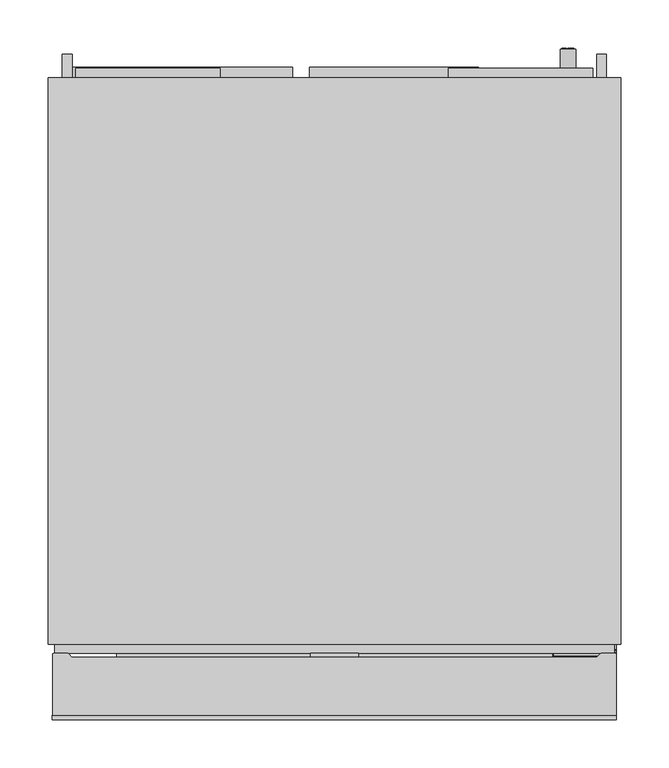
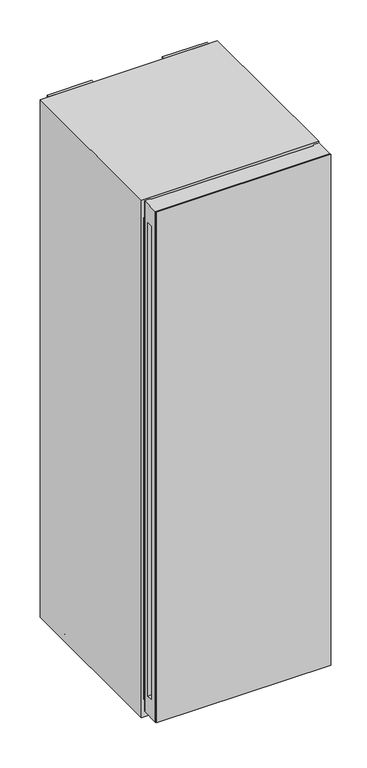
"""IFC4 building model written with IfcOpenShell, lengths in millimetres: proxy geometry, 12581040_CN_KWTS4785F_OBSW : 39478562_CN_12581040_KWTS4785F_OBSW."""

import ifcopenshell
import ifcopenshell.guid

model = None  # the IFC model being written
_history = None  # IfcOwnerHistory: only IFC2X3 demands one
_inside = {}  # id of a spatial element -> (the spatial element, [elements in it])
_under = {}  # id of a project, library or spatial element -> (it, [spatial elements below it])
_declared = {}  # id of a project -> (the project, [libraries it declares])
_typed = {}  # id of a type object -> (the type object, [elements of that type])
_made_of = {}  # id of a material, layer set ... -> (it, [elements and type objects made of it])


def new_model(schema):
    """Start an empty IFC model of exactly this schema.

    Asked for "IFC4X3", IfcOpenShell would pick the latest addendum, in which some entities
    have other attributes; the version numbers below select the first issue.
    IFC2X3 requires an IfcOwnerHistory on every rooted entity: one is made here for all.
    """
    global model, _history
    if schema == "IFC4X3":
        model = ifcopenshell.file(schema_version=(4, 3, 0, 0))
    else:
        model = ifcopenshell.file(schema=schema)
    _inside.clear()
    _under.clear()
    _declared.clear()
    _typed.clear()
    _made_of.clear()
    _history = None
    if model.schema == "IFC2X3":
        org = make("IfcOrganization", Name="unknown")
        user = make(
            "IfcPersonAndOrganization",
            ThePerson=make("IfcPerson", FamilyName="unknown"),
            TheOrganization=org,
        )
        app = make(
            "IfcApplication",
            ApplicationDeveloper=org,
            Version="unknown",
            ApplicationFullName="unknown",
            ApplicationIdentifier="unknown",
        )
        _history = make(
            "IfcOwnerHistory",
            OwningUser=user,
            OwningApplication=app,
            ChangeAction="ADDED",
            CreationDate=0,
        )
    return model


def make(cls, **values):
    """One entity of the class cls with the attributes given. An attribute that is None is left unset."""
    return model.create_entity(
        cls, **{name: value for name, value in values.items() if value is not None}
    )


def rooted(cls, **values):
    """An entity with a GlobalId (a new one), such as an element, a storey or a relation."""
    return make(cls, GlobalId=ifcopenshell.guid.new(), OwnerHistory=_history, **values)


def si_unit(unit_type, name, prefix=None):
    """IfcSIUnit, for example si_unit("LENGTHUNIT", "METRE", prefix="MILLI")."""
    return make("IfcSIUnit", UnitType=unit_type, Prefix=prefix, Name=name)


def assignment(units):
    """IfcUnitAssignment: the units of a project."""
    return None if units is None else make("IfcUnitAssignment", Units=units)


def point(xyz):
    """IfcCartesianPoint."""
    return None if xyz is None else make("IfcCartesianPoint", Coordinates=xyz)


def direction(xyz):
    """IfcDirection."""
    return None if xyz is None else make("IfcDirection", DirectionRatios=xyz)


def frame(location, z_axis=None, x_axis=None):
    """IfcAxis2Placement3D, a coordinate frame: its origin and axes. An axis left out is left unset."""
    return make(
        "IfcAxis2Placement3D",
        Location=point(location),
        Axis=direction(z_axis),
        RefDirection=direction(x_axis),
    )


def frame_2d(location, x_axis=None):
    """IfcAxis2Placement2D, a coordinate frame in the plane: its origin and x axis."""
    return make(
        "IfcAxis2Placement2D", Location=point(location), RefDirection=direction(x_axis)
    )


def origin():
    """The frame at (0, 0, 0) with its axes left unset."""
    return frame((0.0, 0.0, 0.0))


def origin_with_axes():
    """The frame at (0, 0, 0) with the z axis (0, 0, 1) and the x axis (1, 0, 0) written out."""
    return frame((0.0, 0.0, 0.0), z_axis=(0.0, 0.0, 1.0), x_axis=(1.0, 0.0, 0.0))


def place(relative_to, where):
    """IfcLocalPlacement: puts the frame where relative to a parent placement (None: the world)."""
    return make(
        "IfcLocalPlacement", PlacementRelTo=relative_to, RelativePlacement=where
    )


def context(
    kind, dimensions, precision=None, world=None, true_north=None, identifier=None
):
    """IfcGeometricRepresentationContext, for example the 3D "Model" context."""
    return make(
        "IfcGeometricRepresentationContext",
        ContextIdentifier=identifier,
        ContextType=kind,
        CoordinateSpaceDimension=dimensions,
        Precision=precision,
        WorldCoordinateSystem=world,
        TrueNorth=true_north,
    )


def project(units=None, contexts=None):
    """IfcProject with its units and contexts."""
    return rooted(
        "IfcProject",
        Name="project",
        RepresentationContexts=contexts,
        UnitsInContext=assignment(units),
    )


def spatial(cls, under=None, at=None, **own):
    """A site, building, storey or space (cls), placed at a placement, below another one or the project."""
    s = rooted(cls, ObjectPlacement=at, **own)
    if under is not None:
        _under.setdefault(under.id(), (under, []))[1].append(s)
    return s


def polyline(points):
    """IfcPolyline through the points."""
    return make("IfcPolyline", Points=[point(p) for p in points])


def circle_curve(where, radius):
    """IfcCircle in the frame where."""
    return make("IfcCircle", Position=where, Radius=radius)


def trimmed(basis, trim1, trim2, sense, master):
    """IfcTrimmedCurve: the piece of a basis curve between two trims."""
    return make(
        "IfcTrimmedCurve",
        BasisCurve=basis,
        Trim1=trim1,
        Trim2=trim2,
        SenseAgreement=sense,
        MasterRepresentation=master,
    )


def segment(curve, same_sense, transition):
    """IfcCompositeCurveSegment."""
    return make(
        "IfcCompositeCurveSegment",
        Transition=transition,
        SameSense=same_sense,
        ParentCurve=curve,
    )


def composite_curve(segments, self_intersect=None):
    """IfcCompositeCurve: segments joined end to end."""
    return make("IfcCompositeCurve", Segments=segments, SelfIntersect=self_intersect)


def outline(outer, holes=None, kind="AREA"):
    """IfcArbitraryClosedProfileDef: a profile drawn as a closed curve; with holes, ...WithVoids."""
    if holes is None:
        return make("IfcArbitraryClosedProfileDef", ProfileType=kind, OuterCurve=outer)
    return make(
        "IfcArbitraryProfileDefWithVoids",
        ProfileType=kind,
        OuterCurve=outer,
        InnerCurves=holes,
    )


def extrude(swept, where, along, depth):
    """IfcExtrudedAreaSolid: the profile swept, set in the frame where, extruded along a direction by depth."""
    return make(
        "IfcExtrudedAreaSolid",
        SweptArea=swept,
        Position=where,
        ExtrudedDirection=direction(along),
        Depth=depth,
    )


def faces_of(points, faces, orient=None, outer=None):
    """IfcFace entities. A face is a list of loops; a loop is a list of indices into points, from 0.

    orient and outer hold one flag for each loop. By default every Orientation is true, the
    first loop of a face is its IfcFaceOuterBound and the others are IfcFaceBound.
    """
    made = []
    for i, loops in enumerate(faces):
        bounds = []
        for j, loop in enumerate(loops):
            is_outer = j == 0 if outer is None else outer[i][j]
            bounds.append(
                make(
                    "IfcFaceOuterBound" if is_outer else "IfcFaceBound",
                    Bound=make("IfcPolyLoop", Polygon=[points[k] for k in loop]),
                    Orientation=True if orient is None else orient[i][j],
                )
            )
        made.append(make("IfcFace", Bounds=bounds))
    return made


def faceted_brep(points, faces, orient=None, outer=None, voids=None):
    """IfcFacetedBrep: a solid bounded by flat faces; with voids (closed shells), ...WithVoids."""
    shared = [point(p) for p in points]
    hull = make("IfcClosedShell", CfsFaces=faces_of(shared, faces, orient, outer))
    if voids is None:
        return make("IfcFacetedBrep", Outer=hull)
    return make(
        "IfcFacetedBrepWithVoids",
        Outer=hull,
        Voids=[
            make(cls, CfsFaces=faces_of(shared, fs, o, b)) for cls, fs, o, b in voids
        ],
    )


def shape(context_of_items, identifier, shape_type, items):
    """IfcShapeRepresentation: the items that make up one representation, for example the "Body"."""
    return make(
        "IfcShapeRepresentation",
        ContextOfItems=context_of_items,
        RepresentationIdentifier=identifier,
        RepresentationType=shape_type,
        Items=items,
    )


def source(mapping_origin, context_of_items, identifier, shape_type, items):
    """IfcRepresentationMap: a shape defined once, which mapped items show again and again."""
    return make(
        "IfcRepresentationMap",
        MappingOrigin=mapping_origin,
        MappedRepresentation=shape(context_of_items, identifier, shape_type, items),
    )


def transform(
    local_origin,
    x_axis=None,
    y_axis=None,
    z_axis=None,
    scale=None,
    scale2=None,
    scale3=None,
    uniform=True,
):
    """IfcCartesianTransformationOperator3D, or its non-uniform kind. x_axis, y_axis, z_axis: its Axis1, 2, 3."""
    if uniform:
        return make(
            "IfcCartesianTransformationOperator3D",
            Axis1=direction(x_axis),
            Axis2=direction(y_axis),
            LocalOrigin=point(local_origin),
            Scale=scale,
            Axis3=direction(z_axis),
        )
    return make(
        "IfcCartesianTransformationOperator3DnonUniform",
        Axis1=direction(x_axis),
        Axis2=direction(y_axis),
        LocalOrigin=point(local_origin),
        Scale=scale,
        Axis3=direction(z_axis),
        Scale2=scale2,
        Scale3=scale3,
    )


def mapped(mapping_source, mapping_target):
    """IfcMappedItem: shows the shape of a source again, moved by a transform."""
    return make(
        "IfcMappedItem", MappingSource=mapping_source, MappingTarget=mapping_target
    )


def made_of(thing, what):
    """Note that an element or type object is made of a material, layer set ...; save() writes the relation."""
    if what is not None:
        _made_of.setdefault(what.id(), (what, []))[1].append(thing)
    return thing


def element(
    cls,
    number,
    at=None,
    inside=None,
    cuts=None,
    type_object=None,
    material=None,
    context=None,
    identifier="Body",
    shape_type=None,
    held_by="IfcProductDefinitionShape",
    body=None,
    shapes=None,
    **own,
):
    """One element of the class cls, such as IfcWall. Its Tag is "e" and its number.

    at: its placement. inside: the storey or other place that contains it. cuts: it is an
    opening in that element (IfcRelVoidsElement). A single representation is given by context,
    identifier, shape_type and body (its items); several are given by shapes. held_by: the class
    of the entity that holds the representations. save() writes the other relations.
    """
    e = rooted(cls, Tag="e%d" % number, ObjectPlacement=at, **own)
    if body is not None:
        shapes = [shape(context, identifier, shape_type, body)]
    if shapes is not None:
        e.Representation = make(held_by, Representations=shapes)
    if inside is not None:
        _inside.setdefault(inside.id(), (inside, []))[1].append(e)
    if cuts is not None:
        rooted(
            "IfcRelVoidsElement", RelatingBuildingElement=cuts, RelatedOpeningElement=e
        )
    if type_object is not None:
        _typed.setdefault(type_object.id(), (type_object, []))[1].append(e)
    return made_of(e, material)


def aggregate(whole, parts):
    """IfcRelAggregates: a whole, such as a stair, and the parts it consists of."""
    return rooted("IfcRelAggregates", RelatingObject=whole, RelatedObjects=parts)


def save(model, path):
    """Write the relations noted so far, then the file.

    IfcRelAggregates (storeys below a building ...), IfcRelContainedInSpatialStructure (elements
    in a storey), IfcRelDefinesByType, IfcRelAssociatesMaterial and IfcRelDeclares: one each for
    every whole, place, type object, material and project.
    """
    for whole, parts in _under.values():
        aggregate(whole, parts)
    for where, things in _inside.values():
        rooted(
            "IfcRelContainedInSpatialStructure",
            RelatedElements=things,
            RelatingStructure=where,
        )
    for kind, things in _typed.values():
        rooted("IfcRelDefinesByType", RelatedObjects=things, RelatingType=kind)
    for what, things in _made_of.values():
        rooted("IfcRelAssociatesMaterial", RelatedObjects=things, RelatingMaterial=what)
    for by, libraries in _declared.values():
        rooted("IfcRelDeclares", RelatingContext=by, RelatedDefinitions=libraries)
    model.write(path)


def plane_surface(at):
    """IfcPlane: the flat surface through the origin of the frame at, square to its z axis."""
    return make("IfcPlane", Position=at)


def cylinder_surface(at, radius):
    """IfcCylindricalSurface: all points at the distance radius from the z axis of the frame at."""
    return make("IfcCylindricalSurface", Position=at, Radius=radius)


def advanced_brep(points, edges, surfaces, faces):
    """IfcAdvancedBrep: a solid bounded by faces that lie on surfaces and meet in shared edges.

    An edge is (start, end): straight between two places in points (the first is 0);
    or (start, end, curve); or (start, end, curve, False) where it runs against its curve.
    A face is (place in surfaces, loops), or (place, loops, False) where it looks against
    its surface's normal. A loop lists edges by number (the first is 1), with a minus sign
    where the edge is run from its end to its start. The first loop is the outer one.
    """
    corners = [point(p) for p in points]
    vertices = [make("IfcVertexPoint", VertexGeometry=c) for c in corners]
    made = []
    for start, end, *more in edges:
        made.append(
            make(
                "IfcEdgeCurve",
                EdgeStart=vertices[start],
                EdgeEnd=vertices[end],
                EdgeGeometry=more[0] if more else make("IfcPolyline", Points=[corners[start], corners[end]]),
                SameSense=more[1] if len(more) > 1 else True,
            )
        )
    hull = []
    for where, loops, *sense in faces:
        bounds = []
        for j, loop in enumerate(loops):
            ring = [make("IfcOrientedEdge", EdgeElement=made[abs(k) - 1], Orientation=k > 0) for k in loop]
            bounds.append(
                make(
                    "IfcFaceOuterBound" if j == 0 else "IfcFaceBound",
                    Bound=make("IfcEdgeLoop", EdgeList=ring),
                    Orientation=True,
                )
            )
        hull.append(make("IfcAdvancedFace", Bounds=bounds, FaceSurface=surfaces[where], SameSense=sense[0] if sense else True))
    return make("IfcAdvancedBrep", Outer=make("IfcClosedShell", CfsFaces=hull))


def specialty_equipment_2e1800ad(model_context):
    return source(origin(), model_context, "Body", "SolidModel", [
        extrude(outline(composite_curve([segment(polyline([(366.7, -174.8999939), (358.7, -174.8999939), (358.7, -156.8999939), (366.7, -156.8999939)]), True, "CONTINUOUS"), segment(trimmed(circle_curve(frame_2d((366.7, -160.8999939)), 4.0), [point((366.7, -156.8999939))], [point((370.7, -160.8999939))], False, "CARTESIAN"), True, "CONTINUOUS"), segment(polyline([(370.7, -160.8999939), (370.7, -170.8999939)]), True, "CONTINUOUS"), segment(trimmed(circle_curve(frame_2d((366.7, -170.8999939)), 4.0), [point((370.7, -170.8999939))], [point((366.7, -174.8999939))], False, "CARTESIAN"), True, "CONTINUOUS")], self_intersect=False)), frame((0.0, -598.7655853, 0.0), z_axis=(0.0, 1.0, 0.0), x_axis=(0.0, 0.0, 1.0)), (0.0, 0.0, 1.0), 432.2655853),
        extrude(outline(composite_curve([segment(polyline([(366.7, -119.5999985), (358.7, -119.5999985), (358.7, -101.5999985), (366.7, -101.5999985)]), True, "CONTINUOUS"), segment(trimmed(circle_curve(frame_2d((366.7, -105.5999985)), 4.0), [point((366.7, -101.5999985))], [point((370.7, -105.5999985))], False, "CARTESIAN"), True, "CONTINUOUS"), segment(polyline([(370.7, -105.5999985), (370.7, -115.5999985)]), True, "CONTINUOUS"), segment(trimmed(circle_curve(frame_2d((366.7, -115.5999985)), 4.0), [point((370.7, -115.5999985))], [point((366.7, -119.5999985))], False, "CARTESIAN"), True, "CONTINUOUS")], self_intersect=False)), frame((0.0, -598.7655853, 0.0), z_axis=(0.0, 1.0, 0.0), x_axis=(0.0, 0.0, 1.0)), (0.0, 0.0, 1.0), 432.2655853),
        extrude(outline(composite_curve([segment(trimmed(circle_curve(frame_2d((366.7, 115.6000061)), 4.0), [point((366.7, 119.6000061))], [point((370.7, 115.6000061))], False, "CARTESIAN"), True, "CONTINUOUS"), segment(polyline([(370.7, 115.6000061), (370.7, 105.6000061)]), True, "CONTINUOUS"), segment(trimmed(circle_curve(frame_2d((366.7, 105.6000061)), 4.0), [point((370.7, 105.6000061))], [point((366.7, 101.6000061))], False, "CARTESIAN"), True, "CONTINUOUS"), segment(polyline([(366.7, 101.6000061), (358.7, 101.6000061), (358.7, 119.6000061), (366.7, 119.6000061)]), True, "CONTINUOUS")], self_intersect=False)), frame((0.0, -598.7655853, 0.0), z_axis=(0.0, 1.0, 0.0), x_axis=(0.0, 0.0, 1.0)), (0.0, 0.0, 1.0), 432.2655853),
        extrude(outline(composite_curve([segment(trimmed(circle_curve(frame_2d((366.7, 170.8999939)), 4.0), [point((366.7, 174.8999939))], [point((370.7, 170.8999939))], False, "CARTESIAN"), True, "CONTINUOUS"), segment(polyline([(370.7, 170.8999939), (370.7, 160.8999939)]), True, "CONTINUOUS"), segment(trimmed(circle_curve(frame_2d((366.7, 160.8999939)), 4.0), [point((370.7, 160.8999939))], [point((366.7, 156.8999939))], False, "CARTESIAN"), True, "CONTINUOUS"), segment(polyline([(366.7, 156.8999939), (358.7, 156.8999939), (358.7, 174.8999939), (366.7, 174.8999939)]), True, "CONTINUOUS")], self_intersect=False)), frame((0.0, -598.7655853, 0.0), z_axis=(0.0, 1.0, 0.0), x_axis=(0.0, 0.0, 1.0)), (0.0, 0.0, 1.0), 432.2655853),
        extrude(outline(composite_curve([segment(polyline([(366.7, -64.3000031), (358.7, -64.3000031), (358.7, -46.3000031), (366.7, -46.3000031)]), True, "CONTINUOUS"), segment(trimmed(circle_curve(frame_2d((366.7, -50.3000031)), 4.0), [point((366.7, -46.3000031))], [point((370.7, -50.3000031))], False, "CARTESIAN"), True, "CONTINUOUS"), segment(polyline([(370.7, -50.3000031), (370.7, -60.3000031)]), True, "CONTINUOUS"), segment(trimmed(circle_curve(frame_2d((366.7, -60.3000031)), 4.0), [point((370.7, -60.3000031))], [point((366.7, -64.3000031))], False, "CARTESIAN"), True, "CONTINUOUS")], self_intersect=False)), frame((0.0, -598.7655853, 0.0), z_axis=(0.0, 1.0, 0.0), x_axis=(0.0, 0.0, 1.0)), (0.0, 0.0, 1.0), 432.2655853),
        extrude(outline(composite_curve([segment(trimmed(circle_curve(frame_2d((366.7, 5.0)), 4.0), [point((366.7, 9.0))], [point((370.7, 5.0))], False, "CARTESIAN"), True, "CONTINUOUS"), segment(polyline([(370.7, 5.0), (370.7, -5.0)]), True, "CONTINUOUS"), segment(trimmed(circle_curve(frame_2d((366.7, -5.0)), 4.0), [point((370.7, -5.0))], [point((366.7, -9.0))], False, "CARTESIAN"), True, "CONTINUOUS"), segment(polyline([(366.7, -9.0), (358.7, -9.0), (358.7, 9.0), (366.7, 9.0)]), True, "CONTINUOUS")], self_intersect=False)), frame((0.0, -598.7655853, 0.0), z_axis=(0.0, 1.0, 0.0), x_axis=(0.0, 0.0, 1.0)), (0.0, 0.0, 1.0), 432.2655853),
        extrude(outline(composite_curve([segment(polyline([(366.7, 46.3000031), (358.7, 46.3000031), (358.7, 64.3000031), (366.7, 64.3000031)]), True, "CONTINUOUS"), segment(trimmed(circle_curve(frame_2d((366.7, 60.3000031)), 4.0), [point((366.7, 64.3000031))], [point((370.7, 60.3000031))], False, "CARTESIAN"), True, "CONTINUOUS"), segment(polyline([(370.7, 60.3000031), (370.7, 50.3000031)]), True, "CONTINUOUS"), segment(trimmed(circle_curve(frame_2d((366.7, 50.3000031)), 4.0), [point((370.7, 50.3000031))], [point((366.7, 46.3000031))], False, "CARTESIAN"), True, "CONTINUOUS")], self_intersect=False)), frame((0.0, -598.7655853, 0.0), z_axis=(0.0, 1.0, 0.0), x_axis=(0.0, 0.0, 1.0)), (0.0, 0.0, 1.0), 432.2655853),
        extrude(outline(composite_curve([segment(polyline([(739.2, -174.8999939), (731.2, -174.8999939), (731.2, -156.8999939), (739.2, -156.8999939)]), True, "CONTINUOUS"), segment(trimmed(circle_curve(frame_2d((739.2, -160.8999939)), 4.0), [point((739.2, -156.8999939))], [point((743.2, -160.8999939))], False, "CARTESIAN"), True, "CONTINUOUS"), segment(polyline([(743.2, -160.8999939), (743.2, -170.8999939)]), True, "CONTINUOUS"), segment(trimmed(circle_curve(frame_2d((739.2, -170.8999939)), 4.0), [point((743.2, -170.8999939))], [point((739.2, -174.8999939))], False, "CARTESIAN"), True, "CONTINUOUS")], self_intersect=False)), frame((0.0, -598.7655853, 0.0), z_axis=(0.0, 1.0, 0.0), x_axis=(0.0, 0.0, 1.0)), (0.0, 0.0, 1.0), 431.7655853),
        extrude(outline(composite_curve([segment(polyline([(739.2, -119.3181325), (731.2, -119.3181325), (731.2, -101.3181325), (739.2, -101.3181325)]), True, "CONTINUOUS"), segment(trimmed(circle_curve(frame_2d((739.2, -105.3181325)), 4.0), [point((739.2, -101.3181325))], [point((743.2, -105.3181325))], False, "CARTESIAN"), True, "CONTINUOUS"), segment(polyline([(743.2, -105.3181325), (743.2, -115.3181325)]), True, "CONTINUOUS"), segment(trimmed(circle_curve(frame_2d((739.2, -115.3181325)), 4.0), [point((743.2, -115.3181325))], [point((739.2, -119.3181325))], False, "CARTESIAN"), True, "CONTINUOUS")], self_intersect=False)), frame((0.0, -598.7655853, 0.0), z_axis=(0.0, 1.0, 0.0), x_axis=(0.0, 0.0, 1.0)), (0.0, 0.0, 1.0), 431.7655853),
        extrude(outline(composite_curve([segment(trimmed(circle_curve(frame_2d((739.2, 170.8999939)), 4.0), [point((739.2, 174.8999939))], [point((743.2, 170.8999939))], False, "CARTESIAN"), True, "CONTINUOUS"), segment(polyline([(743.2, 170.8999939), (743.2, 160.8999939)]), True, "CONTINUOUS"), segment(trimmed(circle_curve(frame_2d((739.2, 160.8999939)), 4.0), [point((743.2, 160.8999939))], [point((739.2, 156.8999939))], False, "CARTESIAN"), True, "CONTINUOUS"), segment(polyline([(739.2, 156.8999939), (731.2, 156.8999939), (731.2, 174.8999939), (739.2, 174.8999939)]), True, "CONTINUOUS")], self_intersect=False)), frame((0.0, -598.7655853, 0.0), z_axis=(0.0, 1.0, 0.0), x_axis=(0.0, 0.0, 1.0)), (0.0, 0.0, 1.0), 431.7655853),
        extrude(outline(composite_curve([segment(trimmed(circle_curve(frame_2d((739.2, 60.2999992)), 4.0), [point((739.2, 64.2999992))], [point((743.2, 60.2999992))], False, "CARTESIAN"), True, "CONTINUOUS"), segment(polyline([(743.2, 60.2999992), (743.2, 50.2999992)]), True, "CONTINUOUS"), segment(trimmed(circle_curve(frame_2d((739.2, 50.2999992)), 4.0), [point((743.2, 50.2999992))], [point((739.2, 46.2999992))], False, "CARTESIAN"), True, "CONTINUOUS"), segment(polyline([(739.2, 46.2999992), (731.2, 46.2999992), (731.2, 64.2999992), (739.2, 64.2999992)]), True, "CONTINUOUS")], self_intersect=False)), frame((0.0, -598.7655853, 0.0), z_axis=(0.0, 1.0, 0.0), x_axis=(0.0, 0.0, 1.0)), (0.0, 0.0, 1.0), 431.7655853),
        extrude(outline(composite_curve([segment(trimmed(circle_curve(frame_2d((739.2, 115.6000061)), 4.0), [point((739.2, 119.6000061))], [point((743.2, 115.6000061))], False, "CARTESIAN"), True, "CONTINUOUS"), segment(polyline([(743.2, 115.6000061), (743.2, 105.6000061)]), True, "CONTINUOUS"), segment(trimmed(circle_curve(frame_2d((739.2, 105.6000061)), 4.0), [point((743.2, 105.6000061))], [point((739.2, 101.6000061))], False, "CARTESIAN"), True, "CONTINUOUS"), segment(polyline([(739.2, 101.6000061), (731.2, 101.6000061), (731.2, 119.6000061), (739.2, 119.6000061)]), True, "CONTINUOUS")], self_intersect=False)), frame((0.0, -598.7655853, 0.0), z_axis=(0.0, 1.0, 0.0), x_axis=(0.0, 0.0, 1.0)), (0.0, 0.0, 1.0), 431.7655853),
        extrude(outline(composite_curve([segment(trimmed(circle_curve(frame_2d((739.2, -50.3000031)), 4.0), [point((739.2, -46.3000031))], [point((743.2, -50.3000031))], False, "CARTESIAN"), True, "CONTINUOUS"), segment(polyline([(743.2, -50.3000031), (743.2, -60.3000031)]), True, "CONTINUOUS"), segment(trimmed(circle_curve(frame_2d((739.2, -60.3000031)), 4.0), [point((743.2, -60.3000031))], [point((739.2, -64.3000031))], False, "CARTESIAN"), True, "CONTINUOUS"), segment(polyline([(739.2, -64.3000031), (731.2, -64.3000031), (731.2, -46.3000031), (739.2, -46.3000031)]), True, "CONTINUOUS")], self_intersect=False)), frame((0.0, -598.7655853, 0.0), z_axis=(0.0, 1.0, 0.0), x_axis=(0.0, 0.0, 1.0)), (0.0, 0.0, 1.0), 431.7655853),
        extrude(outline(composite_curve([segment(polyline([(739.2, -9.0), (731.2, -9.0), (731.2, 9.0), (739.2, 9.0)]), True, "CONTINUOUS"), segment(trimmed(circle_curve(frame_2d((739.2, 5.0)), 4.0), [point((739.2, 9.0))], [point((743.2, 5.0))], False, "CARTESIAN"), True, "CONTINUOUS"), segment(polyline([(743.2, 5.0), (743.2, -5.0)]), True, "CONTINUOUS"), segment(trimmed(circle_curve(frame_2d((739.2, -5.0)), 4.0), [point((743.2, -5.0))], [point((739.2, -9.0))], False, "CARTESIAN"), True, "CONTINUOUS")], self_intersect=False)), frame((0.0, -598.7655853, 0.0), z_axis=(0.0, 1.0, 0.0), x_axis=(0.0, 0.0, 1.0)), (0.0, 0.0, 1.0), 431.7655853),
        extrude(outline(polyline([(237.5, -604.7655853), (-237.5, -604.7655853), (-237.5, -598.7655853), (237.5, -598.7655853), (237.5, -604.7655853)])), frame((0.0, 0.0, 1537.2318744), z_axis=(0.0, 0.0, 1.0), x_axis=(1.0, 0.0, 0.0)), (0.0, 0.0, 1.0), 35.7681256),
        extrude(outline(polyline([(237.5, -604.7655853), (-237.5, -604.7655853), (-237.5, -598.7655853), (237.5, -598.7655853), (237.5, -604.7655853)])), frame((0.0, 0.0, 559.4318744), z_axis=(0.0, 0.0, 1.0), x_axis=(1.0, 0.0, 0.0)), (0.0, 0.0, 1.0), 36.2681256),
        extrude(outline(polyline([(237.5, -612.1349254), (-237.5, -612.1349254), (-237.5, -604.7655853), (237.5, -604.7655853), (237.5, -612.1349254)])), frame((0.0, 0.0, 559.4318744), z_axis=(0.0, 0.0, 1.0), x_axis=(1.0, 0.0, 0.0)), (0.0, 0.0, 1.0), 36.2681256),
        extrude(outline(polyline([(237.5, -160.5), (-237.5, -160.5), (-237.5, -153.5), (237.5, -153.5), (237.5, -160.5)])), frame((0.0, 0.0, 559.4318744), z_axis=(0.0, 0.0, 1.0), x_axis=(1.0, 0.0, 0.0)), (0.0, 0.0, 1.0), 36.2681256),
        extrude(outline(polyline([(237.5, -167.0), (-237.5, -167.0), (-237.5, -161.0), (237.5, -161.0), (237.5, -167.0)])), frame((0.0, 0.0, 714.9318744), z_axis=(0.0, 0.0, 1.0), x_axis=(1.0, 0.0, 0.0)), (0.0, 0.0, 1.0), 36.2681256),
        extrude(outline(polyline([(237.5, -161.0), (-237.5, -161.0), (-237.5, -154.0), (237.5, -154.0), (237.5, -161.0)])), frame((0.0, 0.0, 714.9318744), z_axis=(0.0, 0.0, 1.0), x_axis=(1.0, 0.0, 0.0)), (0.0, 0.0, 1.0), 36.2681256),
        extrude(outline(polyline([(237.5, -604.7655853), (-237.5, -604.7655853), (-237.5, -598.7655853), (237.5, -598.7655853), (237.5, -604.7655853)])), frame((0.0, 0.0, 714.9318744), z_axis=(0.0, 0.0, 1.0), x_axis=(1.0, 0.0, 0.0)), (0.0, 0.0, 1.0), 36.2681256),
        extrude(outline(polyline([(237.5, -612.1349254), (-237.5, -612.1349254), (-237.5, -604.7655853), (237.5, -604.7655853), (237.5, -612.1349254)])), frame((0.0, 0.0, 714.9318744), z_axis=(0.0, 0.0, 1.0), x_axis=(1.0, 0.0, 0.0)), (0.0, 0.0, 1.0), 36.2681256),
        extrude(outline(polyline([(237.5, -160.5), (-237.5, -160.5), (-237.5, -153.5), (237.5, -153.5), (237.5, -160.5)])), frame((0.0, 0.0, 349.7318744), z_axis=(0.0, 0.0, 1.0), x_axis=(1.0, 0.0, 0.0)), (0.0, 0.0, 1.0), 36.2681256),
        extrude(outline(polyline([(237.5, -166.5), (-237.5, -166.5), (-237.5, -160.5), (237.5, -160.5), (237.5, -166.5)])), frame((0.0, 0.0, 349.7318744), z_axis=(0.0, 0.0, 1.0), x_axis=(1.0, 0.0, 0.0)), (0.0, 0.0, 1.0), 36.2681256),
        extrude(outline(polyline([(237.5, -166.5), (-237.5, -166.5), (-237.5, -160.5), (237.5, -160.5), (237.5, -166.5)])), frame((0.0, 0.0, 559.9318744), z_axis=(0.0, 0.0, 1.0), x_axis=(1.0, 0.0, 0.0)), (0.0, 0.0, 1.0), 35.7681256),
        extrude(outline(polyline([(237.5, -604.7655853), (-237.5, -604.7655853), (-237.5, -598.7655853), (237.5, -598.7655853), (237.5, -604.7655853)])), frame((0.0, 0.0, 350.0), z_axis=(0.0, 0.0, 1.0), x_axis=(1.0, 0.0, 0.0)), (0.0, 0.0, 1.0), 36.0),
        extrude(outline(polyline([(237.5, -612.1349254), (-237.5, -612.1349254), (-237.5, -604.7655853), (237.5, -604.7655853), (237.5, -612.1349254)])), frame((0.0, 0.0, 349.7318744), z_axis=(0.0, 0.0, 1.0), x_axis=(1.0, 0.0, 0.0)), (0.0, 0.0, 1.0), 36.2681256),
        extrude(outline(polyline([(237.5, -160.5), (-237.5, -160.5), (-237.5, -153.5), (237.5, -153.5), (237.5, -160.5)])), frame((0.0, 0.0, 1537.2318744), z_axis=(0.0, 0.0, 1.0), x_axis=(1.0, 0.0, 0.0)), (0.0, 0.0, 1.0), 35.7681256),
        extrude(outline(polyline([(237.5, -160.5), (-237.5, -160.5), (-237.5, -153.5), (237.5, -153.5), (237.5, -160.5)])), frame((0.0, 0.0, 1326.7318744), z_axis=(0.0, 0.0, 1.0), x_axis=(1.0, 0.0, 0.0)), (0.0, 0.0, 1.0), 36.2681256),
        extrude(outline(polyline([(237.5, -166.5), (-237.5, -166.5), (-237.5, -160.5), (237.5, -160.5), (237.5, -166.5)])), frame((0.0, 0.0, 1326.7318744), z_axis=(0.0, 0.0, 1.0), x_axis=(1.0, 0.0, 0.0)), (0.0, 0.0, 1.0), 36.2681256),
        extrude(outline(polyline([(237.5, -166.5), (-237.5, -166.5), (-237.5, -160.5), (237.5, -160.5), (237.5, -166.5)])), frame((0.0, 0.0, 1537.2318744), z_axis=(0.0, 0.0, 1.0), x_axis=(1.0, 0.0, 0.0)), (0.0, 0.0, 1.0), 35.7681256),
        extrude(outline(polyline([(237.5, -604.7655853), (-237.5, -604.7655853), (-237.5, -598.7655853), (237.5, -598.7655853), (237.5, -604.7655853)])), frame((0.0, 0.0, 1326.7318744), z_axis=(0.0, 0.0, 1.0), x_axis=(1.0, 0.0, 0.0)), (0.0, 0.0, 1.0), 36.2681256),
        extrude(outline(polyline([(1333.0, -200.0), (1358.4686279, -200.0), (1363.0, -212.4499969), (1363.0, -237.5), (1333.0, -237.5), (1333.0, -200.0)])), frame((0.0, -598.7655853, 0.0), z_axis=(0.0, 1.0, 0.0), x_axis=(0.0, 0.0, 1.0)), (0.0, 0.0, 1.0), 432.2655853),
        extrude(outline(polyline([(1333.0, 199.6000061), (1333.0, 237.3000031), (1363.0, 237.3000031), (1363.0, 212.0500031), (1358.4686279, 199.6000061), (1333.0, 199.6000061)])), frame((0.0, -598.7655853, 0.0), z_axis=(0.0, 1.0, 0.0), x_axis=(0.0, 0.0, 1.0)), (0.0, 0.0, 1.0), 432.2655853),
        extrude(outline(polyline([(1543.0, 199.6000061), (1543.0, 237.3000031), (1573.0, 237.3000031), (1573.0, 212.0500031), (1568.4686279, 199.6000061), (1543.0, 199.6000061)])), frame((0.0, -598.7655853, 0.0), z_axis=(0.0, 1.0, 0.0), x_axis=(0.0, 0.0, 1.0)), (0.0, 0.0, 1.0), 432.2655853),
        extrude(outline(polyline([(1543.0, -200.0), (1568.614212, -200.0), (1573.0, -212.0500031), (1573.0, -237.5), (1543.0, -237.5), (1543.0, -200.0)])), frame((0.0, -598.7655853, 0.0), z_axis=(0.0, 1.0, 0.0), x_axis=(0.0, 0.0, 1.0)), (0.0, 0.0, 1.0), 432.2655853),
        extrude(outline(polyline([(237.5, -612.1349254), (-237.5, -612.1349254), (-237.5, -604.7655853), (237.5, -604.7655853), (237.5, -612.1349254)])), frame((0.0, 0.0, 1537.2318744), z_axis=(0.0, 0.0, 1.0), x_axis=(1.0, 0.0, 0.0)), (0.0, 0.0, 1.0), 35.7681256),
        extrude(outline(polyline([(237.5, -612.1349254), (-237.5, -612.1349254), (-237.5, -604.7655853), (237.5, -604.7655853), (237.5, -612.1349254)])), frame((0.0, 0.0, 1326.7318744), z_axis=(0.0, 0.0, 1.0), x_axis=(1.0, 0.0, 0.0)), (0.0, 0.0, 1.0), 36.2681256),
        faceted_brep([(298.5, -25.0, 1850.0), (-298.5, -25.0, 1850.0), (-298.5, -615.0, 1850.0), (298.5, -615.0, 1850.0), (298.5, -25.0, 6.5), (298.5, -615.0, 6.5), (-298.5, -615.0, 6.5), (-298.5, -25.0, 6.5), (-247.5, -615.0, 1760.4289551), (247.5, -615.0, 1760.4289551), (247.5, -615.0, 89.0), (-247.5, -615.0, 89.0), (247.5, -83.343928, 1760.4289551), (-247.5, -83.343928, 1760.4289551), (-247.5, -83.343928, 89.0), (247.5, -83.343928, 89.0)], [[[0, 1, 2, 3]], [[4, 5, 6, 7]], [[1, 0, 4, 7]], [[2, 1, 7, 6]], [[3, 2, 6, 5], [8, 9, 10, 11]], [[0, 3, 5, 4]], [[12, 13, 14, 15]], [[13, 12, 9, 8]], [[14, 13, 8, 11]], [[15, 14, 11, 10]], [[12, 15, 10, 9]]]),
        extrude(outline(composite_curve([segment(polyline([(-95.9827703, 6.5), (-103.1869588, 2.0501928)]), True, "CONTINUOUS"), segment(trimmed(circle_curve(frame_2d((-108.1365732, 6.9998228)), 6.9998228), [point((-103.1869588, 2.0501928))], [point((-108.1365732, 0.0))], False, "CARTESIAN"), True, "CONTINUOUS"), segment(polyline([(-108.1365732, 0.0), (-125.5377832, 0.0)]), True, "CONTINUOUS"), segment(trimmed(circle_curve(frame_2d((-125.5377832, 6.9997602)), 6.9997602), [point((-125.5377832, 0.0))], [point((-130.4873533, 2.0501745))], False, "CARTESIAN"), True, "CONTINUOUS"), segment(polyline([(-130.4873533, 2.0501745), (-134.9371521, 6.5), (-95.9827703, 6.5)]), True, "CONTINUOUS")], self_intersect=False)), frame((273.4, 0.0, 0.0), z_axis=(1.0, 0.0, 0.0), x_axis=(0.0, 1.0, 0.0)), (0.0, 0.0, 1.0), 15.1),
        extrude(outline(polyline([(283.5, -25.0), (273.5, -25.0), (273.5, 0.0), (283.5, 0.0), (283.5, -25.0)])), frame((0.0, 0.0, 238.6185332), z_axis=(0.0, 0.0, 1.0), x_axis=(1.0, 0.0, 0.0)), (0.0, 0.0, 1.0), 19.9825435),
        extrude(outline(polyline([(-273.5, -25.0), (-283.5, -25.0), (-283.5, 0.0), (-273.5, 0.0), (-273.5, -25.0)])), frame((0.0, 0.0, 238.5016503), z_axis=(0.0, 0.0, 1.0), x_axis=(1.0, 0.0, 0.0)), (0.0, 0.0, 1.0), 20.0994264),
        extrude(outline(polyline([(149.9313579, -25.0), (-25.9290128, -25.0), (-25.9290128, -13.9), (149.9313579, -13.9), (149.9313579, -25.0)])), frame((0.0, 0.0, 70.0672798), z_axis=(0.0, 0.0, 1.0), x_axis=(1.0, 0.0, 0.0)), (0.0, 0.0, 1.0), 96.7820244),
        extrude(outline(polyline([(-43.8456656, -25.0), (-278.5, -25.0), (-278.5, -13.9), (-43.8456656, -13.9), (-43.8456656, -25.0)])), frame((0.0, 0.0, 69.6571007), z_axis=(0.0, 0.0, 1.0), x_axis=(1.0, 0.0, 0.0)), (0.0, 0.0, 1.0), 97.1922035),
        extrude(outline(composite_curve([segment(trimmed(circle_curve(frame_2d((247.5, -600.0)), 12.0), [point((235.5, -600.0))], [point((259.5, -600.0))], False, "CARTESIAN"), True, "CONTINUOUS"), segment(trimmed(circle_curve(frame_2d((247.5, -600.0)), 12.0), [point((259.5, -600.0))], [point((235.5, -600.0))], False, "CARTESIAN"), True, "CONTINUOUS")], self_intersect=False)), origin_with_axes(), (0.0, 0.0, 1.0), 4.8499999),
        extrude(outline(composite_curve([segment(trimmed(circle_curve(frame_2d((-247.5, -600.0)), 12.0), [point((-259.5, -600.0))], [point((-235.5, -600.0))], False, "CARTESIAN"), True, "CONTINUOUS"), segment(trimmed(circle_curve(frame_2d((-247.5, -600.0)), 12.0), [point((-235.5, -600.0))], [point((-259.5, -600.0))], False, "CARTESIAN"), True, "CONTINUOUS")], self_intersect=False)), origin_with_axes(), (0.0, 0.0, 1.0), 4.8499999),
        extrude(outline(composite_curve([segment(trimmed(circle_curve(frame_2d((247.5, -600.0)), 6.5052807), [point((240.9947193, -600.0))], [point((254.0052807, -600.0))], False, "CARTESIAN"), True, "CONTINUOUS"), segment(trimmed(circle_curve(frame_2d((247.5, -600.0)), 6.5052807), [point((254.0052807, -600.0))], [point((240.9947193, -600.0))], False, "CARTESIAN"), True, "CONTINUOUS")], self_intersect=False)), frame((0.0, 0.0, 4.8499999), z_axis=(0.0, 0.0, 1.0), x_axis=(1.0, 0.0, 0.0)), (0.0, 0.0, 1.0), 1.6500001),
        extrude(outline(composite_curve([segment(trimmed(circle_curve(frame_2d((-247.5, -600.0)), 6.5052807), [point((-254.0052807, -600.0))], [point((-240.9947193, -600.0))], False, "CARTESIAN"), True, "CONTINUOUS"), segment(trimmed(circle_curve(frame_2d((-247.5, -600.0)), 6.5052807), [point((-240.9947193, -600.0))], [point((-254.0052807, -600.0))], False, "CARTESIAN"), True, "CONTINUOUS")], self_intersect=False)), frame((0.0, 0.0, 4.8499999), z_axis=(0.0, 0.0, 1.0), x_axis=(1.0, 0.0, 0.0)), (0.0, 0.0, 1.0), 1.6500001),
        extrude(outline(composite_curve([segment(polyline([(-98.7372004, 6.5), (-103.1869809, 2.0501928)]), True, "CONTINUOUS"), segment(trimmed(circle_curve(frame_2d((-108.1365842, 6.9997961)), 6.9997961), [point((-103.1869809, 2.0501928))], [point((-108.1365842, 0.0))], False, "CARTESIAN"), True, "CONTINUOUS"), segment(polyline([(-108.1365842, 0.0), (-125.5377942, 0.0)]), True, "CONTINUOUS"), segment(trimmed(circle_curve(frame_2d((-125.5377942, 6.9997335)), 6.9997335), [point((-125.5377942, 0.0))], [point((-130.4873533, 2.0501745))], False, "CARTESIAN"), True, "CONTINUOUS"), segment(polyline([(-130.4873533, 2.0501745), (-134.9371521, 6.5), (-98.7372004, 6.5)]), True, "CONTINUOUS")], self_intersect=False)), frame((-288.4986681, 0.0, 0.0), z_axis=(1.0, 0.0, 0.0), x_axis=(0.0, 1.0, 0.0)), (0.0, 0.0, 1.0), 15.4986681),
        extrude(outline(composite_curve([segment(polyline([(-77.4661946, 6.5), (-54.5459203, 6.5)]), True, "CONTINUOUS"), segment(trimmed(circle_curve(frame_2d((-66.0060575, 13.3267301)), 13.3393773), [point((-54.5459203, 6.5))], [point((-77.4661946, 6.5))], False, "CARTESIAN"), True, "CONTINUOUS")], self_intersect=False)), frame((248.5, 0.0, 0.0), z_axis=(1.0, 0.0, 0.0), x_axis=(0.0, 1.0, 0.0)), (0.0, 0.0, 1.0), 15.0),
        extrude(outline(composite_curve([segment(polyline([(-77.4661946, 6.5), (-54.5459203, 6.5)]), True, "CONTINUOUS"), segment(trimmed(circle_curve(frame_2d((-66.0060575, 13.3267301)), 13.3393773), [point((-54.5459203, 6.5))], [point((-77.4661946, 6.5))], False, "CARTESIAN"), True, "CONTINUOUS")], self_intersect=False)), frame((-263.5, 0.0, 0.0), z_axis=(1.0, 0.0, 0.0), x_axis=(0.0, 1.0, 0.0)), (0.0, 0.0, 1.0), 15.0),
        extrude(outline(polyline([(-118.8940533, -25.0), (-269.5, -25.0), (-269.5, -14.9869385), (-118.8940533, -14.9869385), (-118.8940533, -25.0)])), frame((0.0, 0.0, 1808.3465251), z_axis=(0.0, 0.0, 1.0), x_axis=(1.0, 0.0, 0.0)), (0.0, 0.0, 1.0), 41.6534749),
        extrude(outline(polyline([(269.5, -25.0), (118.8940533, -25.0), (118.8940533, -14.9869385), (269.5, -14.9869385), (269.5, -25.0)])), frame((0.0, 0.0, 1808.3465251), z_axis=(0.0, 0.0, 1.0), x_axis=(1.0, 0.0, 0.0)), (0.0, 0.0, 1.0), 41.6534749),
        extrude(outline(polyline([(143.6302282, 249.4018082), (151.666733, 249.4018082), (151.666733, 243.6255704), (150.6621699, 243.6255704), (150.6621699, 248.3972451), (148.2763325, 248.3972451), (148.2763325, 243.8767112), (147.2717694, 243.8767112), (147.2717694, 248.3972451), (144.6347913, 248.3972451), (144.6347913, 243.5), (143.6302282, 243.5), (143.6302282, 249.4018082)])), frame((0.0, 5.0, 0.0), z_axis=(0.0, 1.0, 0.0), x_axis=(0.0, 0.0, 1.0)), (0.0, 0.0, 1.0), 1.0),
        extrude(outline(polyline([(143.6302282, 241.9931553), (151.666733, 241.9931553), (151.666733, 240.9885922), (144.6347913, 240.9885922), (144.6347913, 236.9703398), (143.6302282, 236.9703398), (143.6302282, 241.9931553)])), frame((0.0, 5.0, 0.0), z_axis=(0.0, 1.0, 0.0), x_axis=(0.0, 0.0, 1.0)), (0.0, 0.0, 1.0), 1.0),
        extrude(outline(composite_curve([segment(trimmed(circle_curve(frame_2d((147.612854, 243.5)), 8.0), [point((147.612854, 235.5))], [point((147.612854, 251.5))], False, "CARTESIAN"), True, "CONTINUOUS"), segment(trimmed(circle_curve(frame_2d((147.612854, 243.5)), 8.0), [point((147.612854, 251.5))], [point((147.612854, 235.5))], False, "CARTESIAN"), True, "CONTINUOUS")], self_intersect=False)), frame((0.0, -25.0, 0.0), z_axis=(0.0, 1.0, 0.0), x_axis=(0.0, 0.0, 1.0)), (0.0, 0.0, 1.0), 30.0),
        extrude(outline(composite_curve([segment(trimmed(circle_curve(frame_2d((277.9342421, -659.0)), 12.0), [point((265.9342421, -659.0))], [point((289.9342421, -659.0))], False, "CARTESIAN"), True, "CONTINUOUS"), segment(trimmed(circle_curve(frame_2d((277.9342421, -659.0)), 12.0), [point((289.9342421, -659.0))], [point((265.9342421, -659.0))], False, "CARTESIAN"), True, "CONTINUOUS")], self_intersect=False)), frame((0.0, 0.0, 24.3999996), z_axis=(0.0, 0.0, 1.0), x_axis=(1.0, 0.0, 0.0)), (0.0, 0.0, 1.0), 10.6000004),
        extrude(outline(polyline([(25.0, -689.0), (-25.0, -689.0), (-25.0, -624.4869385), (25.0, -624.4869385), (25.0, -689.0)])), frame((0.0, 0.0, 1771.7094489), z_axis=(0.0, 0.0, 1.0), x_axis=(1.0, 0.0, 0.0)), (0.0, 0.0, 1.0), 37.5553013),
        extrude(outline(polyline([(226.994585, -689.0), (-227.0002923, -689.0), (-227.0002923, -624.4869385), (226.994585, -624.4869385), (226.994585, -689.0)])), frame((0.0, 0.0, 148.0), z_axis=(0.0, 0.0, 1.0), x_axis=(1.0, 0.0, 0.0)), (0.0, 0.0, 1.0), 1580.2571148),
        extrude(outline(polyline([(-638.5480061, 19.3999996), (-671.4869385, 19.3999996), (-671.4869385, 24.3999996), (-638.8043454, 24.3999996), (-633.1557004, 22.0602542), (-630.5576245, 17.5602542), (-626.7816494, 15.3801952), (-623.0234631, 15.3801952), (-620.8645944, 16.2757127), (-620.0, 18.3630282), (-620.0, 67.3223068), (-615.0, 67.3223068), (-615.0, 17.3684663), (-617.0371909, 12.4502525), (-622.0275813, 10.3801952), (-628.1213947, 10.3801952), (-634.2178783, 13.8999996), (-636.8159542, 18.3999996), (-638.5480061, 19.3999996)])), frame((228.8353296, 0.0, 0.0), z_axis=(1.0, 0.0, 0.0), x_axis=(0.0, 1.0, 0.0)), (0.0, 0.0, 1.0), 64.9646704),
        advanced_brep(
        [(293.8, -689.0, 1852.2999756), (293.8, -625.9869385, 1852.2999756), (292.3, -624.4869385, 1852.2999756), (278.3456807, -624.4869385, 1852.2999756), (277.0728238, -625.014173, 1852.2999756), (273.6000584, -628.4869385, 1852.2999756), (-273.6000584, -628.4869385, 1852.2999756), (-277.0728238, -625.014173, 1852.2999756), (-278.3456807, -624.4869385, 1852.2999756), (-292.3, -624.4869385, 1852.2999756), (-293.8, -625.9869385, 1852.2999756), (-293.8, -689.0, 1852.2999756), (293.8, -689.0, 35.0), (-293.8, -689.0, 35.0), (-293.8, -625.9869385, 35.0), (-292.3, -624.4869385, 35.0), (-278.3456807, -624.4869385, 35.0), (-277.0728238, -625.014173, 35.0), (-273.6000584, -628.4869385, 35.0), (273.6000584, -628.4869385, 35.0), (277.0728238, -625.014173, 35.0), (278.3456807, -624.4869385, 35.0), (292.3, -624.4869385, 35.0), (293.8, -625.9869385, 35.0), (293.8, -665.010437, 101.0), (293.8, -665.010437, 1786.5), (293.8, -645.225994, 1786.5), (293.8, -645.225994, 101.0), (226.994585, -628.4869385, 1728.2571148), (-227.0002923, -628.4869385, 1728.2571148), (-227.0002923, -628.4869385, 148.0), (226.994585, -628.4869385, 148.0), (25.0, -628.4869385, 1809.2647502), (-25.0, -628.4869385, 1809.2647502), (-25.0, -628.4869385, 1771.7094489), (25.0, -628.4869385, 1771.7094489), (-293.8, -665.010437, 1786.5), (-293.8, -665.010437, 101.0), (-293.8, -645.225994, 101.0), (-293.8, -645.225994, 1786.5), (-227.0002923, -689.0, 1728.2571148), (226.994585, -689.0, 1728.2571148), (226.994585, -689.0, 148.0), (-227.0002923, -689.0, 148.0), (-25.0, -689.0, 1809.2647502), (25.0, -689.0, 1809.2647502), (25.0, -689.0, 1771.7094489), (-25.0, -689.0, 1771.7094489), (277.9342421, -665.010437, 1786.5), (277.9342421, -665.010437, 101.0), (277.9342421, -645.225994, 101.0), (277.9342421, -645.225994, 1786.5), (-277.9342421, -665.010437, 1786.5), (-277.9342421, -645.225994, 1786.5), (-277.9342421, -645.225994, 101.0), (-277.9342421, -665.010437, 101.0)],
        [
            (0, 1),
            (1, 2, circle_curve(frame((292.3, -625.9869385, 1852.2999756), z_axis=(0.0, 0.0, 1.0), x_axis=(1.0, 0.0, 0.0)), 1.5)),
            (2, 3),
            (3, 4, circle_curve(frame((278.3456807, -626.2870299, 1852.2999756), z_axis=(0.0, 0.0, 1.0), x_axis=(1.0, 0.0, 0.0)), 1.8000914)),
            (4, 5),
            (5, 6),
            (6, 7),
            (7, 8, circle_curve(frame((-278.3456807, -626.2870299, 1852.2999756), z_axis=(0.0, 0.0, 1.0), x_axis=(1.0, 0.0, 0.0)), 1.8000914)),
            (8, 9),
            (9, 10, circle_curve(frame((-292.3, -625.9869385, 1852.2999756), z_axis=(0.0, 0.0, 1.0), x_axis=(1.0, 0.0, 0.0)), 1.5)),
            (10, 11),
            (11, 0),
            (12, 13),
            (13, 14),
            (14, 15, circle_curve(frame((-292.3, -625.9869385, 35.0), z_axis=(0.0, 0.0, -1.0), x_axis=(1.0, 0.0, 0.0)), 1.5)),
            (15, 16),
            (16, 17, circle_curve(frame((-278.3456807, -626.2870299, 35.0), z_axis=(0.0, 0.0, -1.0), x_axis=(1.0, 0.0, 0.0)), 1.8000914)),
            (17, 18),
            (18, 19),
            (19, 20),
            (20, 21, circle_curve(frame((278.3456807, -626.2870299, 35.0), z_axis=(0.0, 0.0, -1.0), x_axis=(1.0, 0.0, 0.0)), 1.8000914)),
            (21, 22),
            (22, 23, circle_curve(frame((292.3, -625.9869385, 35.0), z_axis=(0.0, 0.0, -1.0), x_axis=(1.0, 0.0, 0.0)), 1.5)),
            (23, 12),
            (0, 12),
            (23, 1),
            (24, 25),
            (25, 26),
            (26, 27),
            (27, 24),
            (22, 2),
            (21, 3),
            (20, 4),
            (19, 5),
            (18, 6),
            (28, 29),
            (29, 30),
            (30, 31),
            (31, 28),
            (32, 33),
            (33, 34),
            (34, 35),
            (35, 32),
            (17, 7),
            (16, 8),
            (15, 9),
            (14, 10),
            (13, 11),
            (36, 37),
            (37, 38),
            (38, 39),
            (39, 36),
            (40, 41),
            (41, 42),
            (42, 43),
            (43, 40),
            (44, 45),
            (45, 46),
            (46, 47),
            (47, 44),
            (28, 41),
            (40, 29),
            (43, 30),
            (42, 31),
            (48, 49),
            (49, 50),
            (50, 51),
            (51, 48),
            (48, 25),
            (24, 49),
            (27, 50),
            (26, 51),
            (52, 53),
            (53, 54),
            (54, 55),
            (55, 52),
            (55, 37),
            (36, 52),
            (54, 38),
            (53, 39),
            (32, 45),
            (44, 33),
            (47, 34),
            (46, 35),
        ],
        [
            plane_surface(frame((293.8, -689.0, 1852.2999756), z_axis=(0.0, 0.0, 1.0), x_axis=(0.0, 1.0, 0.0))),
            plane_surface(frame((293.8, -689.0, 35.0), z_axis=(0.0, 0.0, -1.0), x_axis=(0.0, -1.0, 0.0))),
            plane_surface(frame((293.8, -689.0, 1852.2999756), z_axis=(1.0, 0.0, 0.0), x_axis=(0.0, 0.0, -1.0))),
            cylinder_surface(frame((292.3, -625.9869385, 35.0), z_axis=(0.0, 0.0, 1.0), x_axis=(1.0, 0.0, 0.0)), 1.5),
            plane_surface(frame((292.3, -624.4869385, 1852.2999756), z_axis=(-1.2707140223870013e-12, 1.0, 0.0), x_axis=(0.0, 0.0, -1.0))),
            cylinder_surface(frame((278.3456807, -626.2870299, 35.0), z_axis=(0.0, 0.0, 1.0), x_axis=(1.0, 0.0, 0.0)), 1.8000914),
            plane_surface(frame((277.0728238, -625.014173, 1852.2999756), z_axis=(-0.7071067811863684, 0.7071067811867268, 0.0), x_axis=(0.0, 0.0, -1.0))),
            plane_surface(frame((273.6000584, -628.4869385, 1852.2999756), z_axis=(0.0, 1.0, 0.0), x_axis=(0.0, 0.0, -1.0))),
            plane_surface(frame((-273.6000584, -628.4869385, 1852.2999756), z_axis=(0.7071067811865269, 0.7071067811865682, 0.0), x_axis=(0.0, 0.0, -1.0))),
            cylinder_surface(frame((-278.3456807, -626.2870299, 35.0), z_axis=(0.0, 0.0, 1.0), x_axis=(1.0, 0.0, 0.0)), 1.8000914),
            plane_surface(frame((-278.3456807, -624.4869385, 1852.2999756), z_axis=(0.0, 1.0, 0.0), x_axis=(0.0, 0.0, -1.0))),
            cylinder_surface(frame((-292.3, -625.9869385, 35.0), z_axis=(0.0, 0.0, 1.0), x_axis=(1.0, 0.0, 0.0)), 1.5),
            plane_surface(frame((-293.8, -625.9869385, 1852.2999756), z_axis=(-1.0, 0.0, 0.0), x_axis=(0.0, 0.0, -1.0))),
            plane_surface(frame((-293.8, -689.0, 1852.2999756), z_axis=(0.0, -1.0, 0.0), x_axis=(0.0, 0.0, -1.0))),
            plane_surface(frame((226.994585, -959.9997004, 1728.2571148), z_axis=(0.0, 0.0, -1.0), x_axis=(0.0, 1.0, 0.0))),
            plane_surface(frame((-227.0002923, -959.9997004, 1728.2571148), z_axis=(1.0, 0.0, 0.0), x_axis=(0.0, 1.0, 0.0))),
            plane_surface(frame((-227.0002923, -959.9997004, 148.0), z_axis=(0.0, 0.0, 1.0), x_axis=(0.0, 1.0, 0.0))),
            plane_surface(frame((226.994585, -959.9997004, 148.0), z_axis=(-1.0, 0.0, 0.0), x_axis=(0.0, 1.0, 0.0))),
            plane_surface(frame((277.9342421, -665.010437, 1786.5), z_axis=(1.0, 0.0, 0.0), x_axis=(0.0, 0.0, 1.0))),
            plane_surface(frame((293.8, -665.010437, 1786.5), z_axis=(0.0, 1.0, 0.0), x_axis=(-1.0, 0.0, 0.0))),
            plane_surface(frame((293.8, -665.010437, 101.0), z_axis=(0.0, 0.0, 1.0), x_axis=(-1.0, 0.0, 0.0))),
            plane_surface(frame((293.8, -645.225994, 101.0), z_axis=(0.0, -1.0, 0.0), x_axis=(-1.0, 0.0, 0.0))),
            plane_surface(frame((293.8, -645.225994, 1786.5), z_axis=(0.0, 0.0, -1.0), x_axis=(-1.0, 0.0, 0.0))),
            plane_surface(frame((-277.9342421, -645.225994, 1786.5), z_axis=(-1.0, 0.0, 0.0), x_axis=(0.0, -1.0, 0.0))),
            plane_surface(frame((-293.8, -665.010437, 101.0), z_axis=(0.0, 1.0, 0.0), x_axis=(1.0, 0.0, 0.0))),
            plane_surface(frame((-293.8, -645.225994, 101.0), z_axis=(0.0, 0.0, 1.0), x_axis=(1.0, 0.0, 0.0))),
            plane_surface(frame((-293.8, -645.225994, 1786.5), z_axis=(0.0, -1.0, 0.0), x_axis=(1.0, 0.0, 0.0))),
            plane_surface(frame((-293.8, -665.010437, 1786.5), z_axis=(0.0, 0.0, -1.0), x_axis=(1.0, 0.0, 0.0))),
            plane_surface(frame((25.0, -875.35584, 1809.2647502), z_axis=(0.0, 0.0, -1.0), x_axis=(0.0, 1.0, 0.0))),
            plane_surface(frame((-25.0, -875.35584, 1809.2647502), z_axis=(1.0, 0.0, 0.0), x_axis=(0.0, 1.0, 0.0))),
            plane_surface(frame((-25.0, -875.35584, 1771.7094489), z_axis=(0.0, 0.0, 1.0), x_axis=(0.0, 1.0, 0.0))),
            plane_surface(frame((25.0, -875.35584, 1771.7094489), z_axis=(-1.0, 0.0, 0.0), x_axis=(0.0, 1.0, 0.0))),
        ],
        [
            (0, [[1, 2, 3, 4, 5, 6, 7, 8, 9, 10, 11, 12]]),
            (1, [[13, 14, 15, 16, 17, 18, 19, 20, 21, 22, 23, 24]]),
            (2, [[-1, 25, -24, 26], [27, 28, 29, 30]]),
            (3, [[-2, -26, -23, 31]]),
            (4, [[-3, -31, -22, 32]]),
            (5, [[-4, -32, -21, 33]]),
            (6, [[-5, -33, -20, 34]]),
            (7, [[-6, -34, -19, 35], [36, 37, 38, 39], [40, 41, 42, 43]]),
            (8, [[-7, -35, -18, 44]]),
            (9, [[-8, -44, -17, 45]]),
            (10, [[-9, -45, -16, 46]]),
            (11, [[-10, -46, -15, 47]]),
            (12, [[-11, -47, -14, 48], [49, 50, 51, 52]]),
            (13, [[-12, -48, -13, -25], [53, 54, 55, 56], [57, 58, 59, 60]]),
            (14, [[61, -53, 62, -36]]),
            (15, [[-62, -56, 63, -37]]),
            (16, [[-63, -55, 64, -38]]),
            (17, [[-61, -39, -64, -54]]),
            (18, [[65, 66, 67, 68]]),
            (19, [[-65, 69, -27, 70]]),
            (20, [[-66, -70, -30, 71]]),
            (21, [[-67, -71, -29, 72]]),
            (22, [[-68, -72, -28, -69]]),
            (23, [[73, 74, 75, 76]]),
            (24, [[-76, 77, -49, 78]]),
            (25, [[-75, 79, -50, -77]]),
            (26, [[-74, 80, -51, -79]]),
            (27, [[-73, -78, -52, -80]]),
            (28, [[81, -57, 82, -40]]),
            (29, [[-82, -60, 83, -41]]),
            (30, [[-83, -59, 84, -42]]),
            (31, [[-81, -43, -84, -58]]),
        ],
    ),
        extrude(outline(polyline([(1786.5, 291.5000122), (1786.5, -291.5000122), (73.0, -291.5000122), (73.0, 291.5000122), (1786.5, 291.5000122)]), holes=[polyline([(1728.2571148, 226.994585), (148.0, 226.994585), (148.0, -227.0002923), (1728.2571148, -227.0002923), (1728.2571148, 226.994585)])]), frame((0.0, -624.4869385, 0.0), z_axis=(0.0, 1.0, 0.0), x_axis=(0.0, 0.0, 1.0)), (0.0, 0.0, 1.0), 9.4869385),
        extrude(outline(polyline([(293.9886779, -693.5), (-294.0000122, -693.5), (-294.0000122, -689.0), (293.9886779, -689.0), (293.9886779, -693.5)])), frame((0.0, 0.0, 34.5), z_axis=(0.0, 0.0, 1.0), x_axis=(1.0, 0.0, 0.0)), (0.0, 0.0, 1.0), 1818.2999756),
    ])


if __name__ == "__main__":
    model = new_model("IFC4")
    model_context = context("Model", 3, world=origin())
    ifc_project = project(units=[si_unit("LENGTHUNIT", "METRE", prefix="MILLI")], contexts=[model_context])
    site = spatial("IfcSite", under=ifc_project)
    building = spatial("IfcBuilding", under=site)
    placement = place(None, origin())
    specialty_equipment_shape = specialty_equipment_2e1800ad(model_context)
    element("IfcBuildingElementProxy", 1, Name="12581040_CN_KWTS4785F_OBSW : 39478562_CN_12581040_KWTS4785F_OBSW", ObjectType="12581040_CN_KWTS4785F_OBSW : 39478562_CN_12581040_KWTS4785F_OBSW", at=placement, inside=building, context=model_context, shape_type="MappedRepresentation", body=[
        mapped(specialty_equipment_shape, transform((0.0, 0.0, 0.0), x_axis=(1.0, 0.0, 0.0), y_axis=(0.0, 1.0, 0.0), z_axis=(0.0, 0.0, 1.0))),
    ])
    save(model, "model.ifc")
